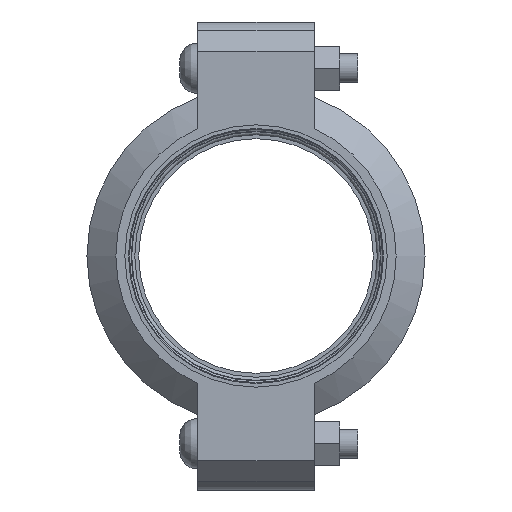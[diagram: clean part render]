
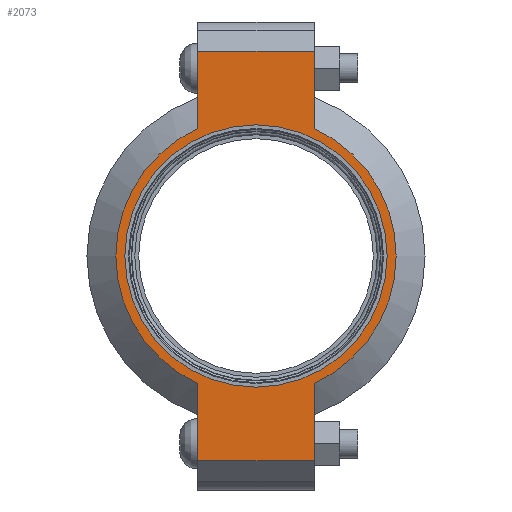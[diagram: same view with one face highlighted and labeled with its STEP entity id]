
A CAD part, left-side view. The second image highlights one B-rep face of the part: STEP entity #2073.
In plain terms, the highlighted planar face has unit normal (-1, 0, 0) as drawn and (0, 0, 1) by its records, which use the part's own axes.
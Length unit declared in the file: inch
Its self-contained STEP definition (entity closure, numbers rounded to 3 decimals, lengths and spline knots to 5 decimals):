
#206=LINE('',#3696,#305);
#214=LINE('',#3732,#313);
#221=LINE('',#3753,#320);
#230=LINE('',#3785,#329);
#231=LINE('',#3789,#330);
#232=LINE('',#3791,#331);
#305=VECTOR('',#3022,0.3937);
#313=VECTOR('',#3038,0.3937);
#320=VECTOR('',#3057,0.3937);
#329=VECTOR('',#3082,0.3937);
#330=VECTOR('',#3087,0.3937);
#331=VECTOR('',#3088,0.3937);
#391=FACE_BOUND('',#661,.T.);
#437=PLANE('',#2438);
#533=FACE_OUTER_BOUND('',#660,.T.);
#660=EDGE_LOOP('',(#1802,#1803,#1804,#1805,#1806,#1807,#1808,#1809));
#661=EDGE_LOOP('',(#1810));
#808=CIRCLE('',#2380,2.25);
#834=CIRCLE('',#2439,2.405);
#835=CIRCLE('',#2440,2.405);
#959=VERTEX_POINT('',#3512);
#1002=VERTEX_POINT('',#3693);
#1003=VERTEX_POINT('',#3695);
#1014=VERTEX_POINT('',#3727);
#1015=VERTEX_POINT('',#3731);
#1022=VERTEX_POINT('',#3750);
#1023=VERTEX_POINT('',#3752);
#1033=VERTEX_POINT('',#3788);
#1034=VERTEX_POINT('',#3790);
#1196=EDGE_CURVE('',#959,#959,#808,.T.);
#1257=EDGE_CURVE('',#1003,#1002,#206,.T.);
#1271=EDGE_CURVE('',#1015,#1014,#214,.T.);
#1281=EDGE_CURVE('',#1023,#1022,#221,.T.);
#1296=EDGE_CURVE('',#1015,#1002,#230,.T.);
#1297=EDGE_CURVE('',#1014,#1023,#834,.T.);
#1298=EDGE_CURVE('',#1033,#1022,#231,.T.);
#1299=EDGE_CURVE('',#1033,#1034,#232,.T.);
#1300=EDGE_CURVE('',#1034,#1003,#835,.T.);
#1802=ORIENTED_EDGE('',*,*,#1296,.F.);
#1803=ORIENTED_EDGE('',*,*,#1271,.T.);
#1804=ORIENTED_EDGE('',*,*,#1297,.T.);
#1805=ORIENTED_EDGE('',*,*,#1281,.T.);
#1806=ORIENTED_EDGE('',*,*,#1298,.F.);
#1807=ORIENTED_EDGE('',*,*,#1299,.T.);
#1808=ORIENTED_EDGE('',*,*,#1300,.T.);
#1809=ORIENTED_EDGE('',*,*,#1257,.T.);
#1810=ORIENTED_EDGE('',*,*,#1196,.T.);
#2073=ADVANCED_FACE('',(#533,#391),#437,.T.);
#2380=AXIS2_PLACEMENT_3D('',#3514,#2898,#2899);
#2438=AXIS2_PLACEMENT_3D('',#3786,#3083,#3084);
#2439=AXIS2_PLACEMENT_3D('',#3787,#3085,#3086);
#2440=AXIS2_PLACEMENT_3D('',#3792,#3089,#3090);
#2898=DIRECTION('center_axis',(0.,0.,-1.));
#2899=DIRECTION('ref_axis',(1.,0.,0.));
#3022=DIRECTION('',(1.,0.,0.));
#3038=DIRECTION('',(-1.,0.,0.));
#3057=DIRECTION('',(-1.,0.,0.));
#3082=DIRECTION('',(0.,-1.,0.));
#3083=DIRECTION('center_axis',(0.,0.,1.));
#3084=DIRECTION('ref_axis',(-1.,0.,0.));
#3085=DIRECTION('center_axis',(0.,0.,1.));
#3086=DIRECTION('ref_axis',(1.,0.,0.));
#3087=DIRECTION('',(0.,1.,0.));
#3088=DIRECTION('',(1.,0.,0.));
#3089=DIRECTION('center_axis',(0.,0.,1.));
#3090=DIRECTION('ref_axis',(1.,0.,0.));
#3512=CARTESIAN_POINT('',(-2.25,0.,1.065));
#3514=CARTESIAN_POINT('Origin',(0.,0.,1.065));
#3693=CARTESIAN_POINT('',(3.515,-1.,1.065));
#3695=CARTESIAN_POINT('',(2.18724,-1.,1.065));
#3696=CARTESIAN_POINT('',(4.015,-1.,1.065));
#3727=CARTESIAN_POINT('',(2.18724,1.,1.065));
#3731=CARTESIAN_POINT('',(3.515,1.,1.065));
#3732=CARTESIAN_POINT('',(-4.015,1.,1.065));
#3750=CARTESIAN_POINT('',(-3.515,1.,1.065));
#3752=CARTESIAN_POINT('',(-2.18724,1.,1.065));
#3753=CARTESIAN_POINT('',(-4.015,1.,1.065));
#3785=CARTESIAN_POINT('',(3.515,-0.5,1.065));
#3786=CARTESIAN_POINT('Origin',(0.,0.,
1.065));
#3787=CARTESIAN_POINT('Origin',(0.,0.,1.065));
#3788=CARTESIAN_POINT('',(-3.515,-1.,1.065));
#3789=CARTESIAN_POINT('',(-3.515,0.5,1.065));
#3790=CARTESIAN_POINT('',(-2.18724,-1.,1.065));
#3791=CARTESIAN_POINT('',(4.015,-1.,1.065));
#3792=CARTESIAN_POINT('Origin',(0.,0.,1.065));
